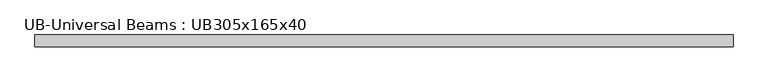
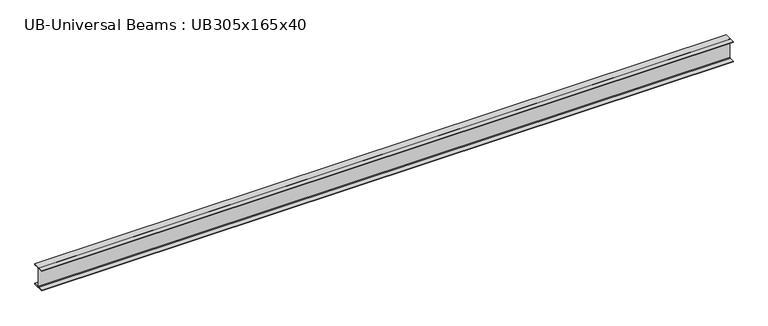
"""IFC4 building model written with IfcOpenShell, lengths in millimetres: beam geometry, UB-Universal Beams : UB305x165x40."""

from ifc_helpers import new_model, si_unit, point, frame, frame_2d, origin, place, context, project, spatial, polyline, circle_curve, trimmed, segment, composite_curve, outline, extrude, source, transform, mapped, element, save


def ub_universal_beams_ub305x165x40_3932fa12(model_context):
    return source(origin(), model_context, "Body", "SweptSolid", [
        extrude(outline(composite_curve([segment(polyline([(82.5, -141.5), (82.5, -151.7), (-82.5, -151.7), (-82.5, -141.5), (-11.9, -141.5)]), True, "CONTINUOUS"), segment(trimmed(circle_curve(frame_2d((-11.9, -132.6)), 8.9), [point((-11.9, -141.5))], [point((-3.0, -132.6))], True, "CARTESIAN"), True, "CONTINUOUS"), segment(polyline([(-3.0, -132.6), (-3.0, 132.6)]), True, "CONTINUOUS"), segment(trimmed(circle_curve(frame_2d((-11.9, 132.6)), 8.9), [point((-3.0, 132.6))], [point((-11.9, 141.5))], True, "CARTESIAN"), True, "CONTINUOUS"), segment(polyline([(-11.9, 141.5), (-82.5, 141.5), (-82.5, 151.7), (82.5, 151.7), (82.5, 141.5), (11.9, 141.5)]), True, "CONTINUOUS"), segment(trimmed(circle_curve(frame_2d((11.9, 132.6)), 8.9), [point((11.9, 141.5))], [point((3.0, 132.6))], True, "CARTESIAN"), True, "CONTINUOUS"), segment(polyline([(3.0, 132.6), (3.0, -132.6)]), True, "CONTINUOUS"), segment(trimmed(circle_curve(frame_2d((11.9, -132.6)), 8.9), [point((3.0, -132.6))], [point((11.9, -141.5))], True, "CARTESIAN"), True, "CONTINUOUS"), segment(polyline([(11.9, -141.5), (82.5, -141.5)]), True, "CONTINUOUS")], self_intersect=False)), frame((-4896.7, 0.0, 0.0), z_axis=(1.0, 0.0, 0.0), x_axis=(0.0, 1.0, 0.0)), (0.0, 0.0, 1.0), 9802.4),
    ])


if __name__ == "__main__":
    model = new_model("IFC4")
    model_context = context("Model", 3, world=origin())
    ifc_project = project(units=[si_unit("LENGTHUNIT", "METRE", prefix="MILLI")], contexts=[model_context])
    site = spatial("IfcSite", under=ifc_project)
    building = spatial("IfcBuilding", under=site)
    placement = place(None, origin())
    ub_universal_beams_ub305x165x40_shape = ub_universal_beams_ub305x165x40_3932fa12(model_context)
    element("IfcBeam", 1, ObjectType="UB-Universal Beams : UB305x165x40", at=placement, inside=building, context=model_context, shape_type="MappedRepresentation", body=[
        mapped(ub_universal_beams_ub305x165x40_shape, transform((0.0, 0.0, 0.0), x_axis=(1.0, 0.0, 0.0), y_axis=(0.0, 1.0, 0.0), z_axis=(0.0, 0.0, 1.0))),
    ])
    save(model, "model.ifc")
